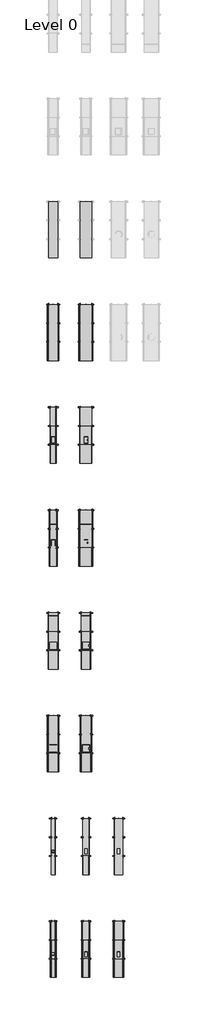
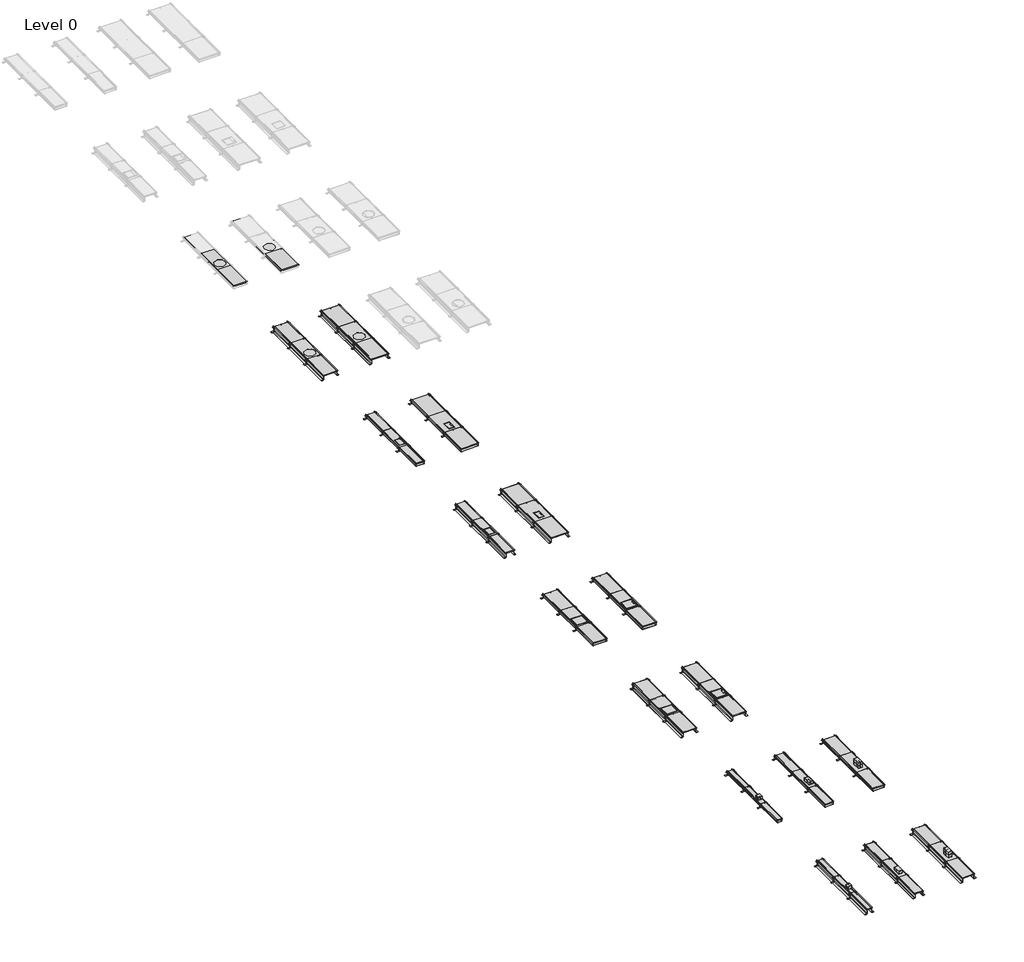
# One storey, part 1 of 4: 82 proxies, 18 cable carrier segments.
"""IFC4 building model written with IfcOpenShell, lengths in millimetres."""

from ifc_helpers import new_model, si_unit, frame, origin, place, context, project, spatial, polyline, outline, extrude, transform, mapped, element, save
from components import electrical_fixtures_5628a288, electrical_fixtures_84b00acf, electrical_fixtures_e54105be, electrical_fixtures_aef36d11, electrical_fixtures_581fab28, electrical_fixtures_b1f2edc7, electrical_fixtures_7e0d0abb, electrical_fixtures_5cdb9d4a, electrical_fixtures_012dd379, electrical_fixtures_ba8608da, electrical_fixtures_6d8ac3d6, electrical_fixtures_e7818586, electrical_fixtures_fd652104, electrical_fixtures_6beec135, electrical_fixtures_f82ab545, electrical_fixtures_a64f4c61, electrical_fixtures_7b31ae11, electrical_fixtures_2455a1ed, electrical_fixtures_ce3c5b8d, electrical_fixtures_1b6315bd, electrical_fixtures_594af182, electrical_fixtures_fba496b2, electrical_fixtures_ba507e34, electrical_fixtures_9ab802ce, electrical_fixtures_dc279cdf, electrical_fixtures_df6a39a7, electrical_fixtures_4151214e, electrical_fixtures_a5200488, electrical_fixtures_af4d04ae, electrical_fixtures_b3ad14d0, electrical_fixtures_b430188c, electrical_fixtures_a94ee444, electrical_fixtures_bc675c06, electrical_fixtures_8ed366d0, electrical_fixtures_bcf557a4, electrical_fixtures_3d1c5f92, electrical_fixtures_84085685, electrical_fixtures_3bb7a620, color_deep_black_c4cdae59, color_deep_black_142afe5e, color_deep_black_3e0b7094, color_deep_black_f01a6ed9

model = new_model("IFC4")

# Units and contexts
model_context = context("Model", 3, world=origin())
ifc_project = project(units=[si_unit("LENGTHUNIT", "METRE", prefix="MILLI")], contexts=[model_context])

# Site, building, storey
site = spatial("IfcSite", under=ifc_project)
building = spatial("IfcBuilding", under=site)
storey = spatial("IfcBuildingStorey", under=building, Name="Level 0", Elevation=0.0)

# Proxies
placement = place(None, origin())
electrical_fixtures_shape = electrical_fixtures_5628a288(model_context)
element("IfcBuildingElementProxy", 1, Name="Electrical_Installation_Hager_Cover-R12-BKAD : Electrical_Installation_Hager_Cover-R12-BKAD", ObjectType="Electrical_Installation_Hager_Cover-R12-BKAD : Electrical_Installation_Hager_Cover-R12-BKAD", at=placement, inside=storey, context=model_context, shape_type="MappedRepresentation", body=[
    mapped(electrical_fixtures_shape, transform((-17399.1749622, -14896.5591011, 0.0), x_axis=(0.0, 1.0, 0.0), y_axis=(-1.0, 0.0, 0.0), z_axis=(0.0, 0.0, 1.0))),
])
electrical_fixtures_2_shape = electrical_fixtures_84b00acf(model_context)
electrical_fixtures_3_shape = electrical_fixtures_e54105be(model_context)
element("IfcBuildingElementProxy", 2, Name="Electrical_Installation_Hager_BKFD-Trunking-System-With-Flexible-Screed-Casing-And-Sealing-Option : Nominal Size 500  Length 2.4 m", ObjectType="Electrical_Installation_Hager_BKFD-Trunking-System-With-Flexible-Screed-Casing-And-Sealing-Option : Nominal Size 500  Length 2.4 m", at=placement, inside=storey, context=model_context, shape_type="MappedRepresentation", body=[
    mapped(electrical_fixtures_2_shape, transform((-17399.1749622, -13296.5591011, 0.0), x_axis=(0.0, -1.0, 0.0), y_axis=(1.0, 0.0, 0.0), z_axis=(0.0, 0.0, 1.0))),
    mapped(electrical_fixtures_3_shape, transform((-17399.1749622, -13296.5591011, 0.0), x_axis=(0.0, -1.0, 0.0), y_axis=(1.0, 0.0, 0.0), z_axis=(0.0, 0.0, 1.0))),
])
electrical_fixtures_4_shape = electrical_fixtures_aef36d11(model_context)
element("IfcBuildingElementProxy", 3, Name="Electrical_Installation_Hager_Blank-Cover-BKA : Electrical_Installation_Hager_Blank-Cover-BKA", ObjectType="Electrical_Installation_Hager_Blank-Cover-BKA : Electrical_Installation_Hager_Blank-Cover-BKA", at=placement, inside=storey, context=model_context, shape_type="MappedRepresentation", body=[
    mapped(electrical_fixtures_4_shape, transform((-18799.1749622, -10496.4911142, 0.0), x_axis=(0.0, -1.0, 0.0), y_axis=(1.0, 0.0, 0.0), z_axis=(0.0, 0.0, 1.0))),
])
element("IfcBuildingElementProxy", 4, Name="Electrical_Installation_Hager_Blank-Cover-BKA : Electrical_Installation_Hager_Blank-Cover-BKA", ObjectType="Electrical_Installation_Hager_Blank-Cover-BKA : Electrical_Installation_Hager_Blank-Cover-BKA", at=placement, inside=storey, context=model_context, shape_type="MappedRepresentation", body=[
    mapped(electrical_fixtures_4_shape, transform((-18799.1749622, -14096.5591011, 0.0), x_axis=(0.0, 1.0, 0.0), y_axis=(-1.0, 0.0, 0.0), z_axis=(0.0, 0.0, 1.0))),
])
element("IfcBuildingElementProxy", 5, Name="Electrical_Installation_Hager_Blank-Cover-BKA : Electrical_Installation_Hager_Blank-Cover-BKA", ObjectType="Electrical_Installation_Hager_Blank-Cover-BKA : Electrical_Installation_Hager_Blank-Cover-BKA", at=placement, inside=storey, context=model_context, shape_type="MappedRepresentation", body=[
    mapped(electrical_fixtures_4_shape, transform((-18799.1749622, -14896.5591011, 0.0), x_axis=(0.0, -1.0, 0.0), y_axis=(1.0, 0.0, 0.0), z_axis=(0.0, 0.0, 1.0))),
])
element("IfcBuildingElementProxy", 6, Name="Electrical_Installation_Hager_Blank-Cover-BKA : Electrical_Installation_Hager_Blank-Cover-BKA", ObjectType="Electrical_Installation_Hager_Blank-Cover-BKA : Electrical_Installation_Hager_Blank-Cover-BKA", at=placement, inside=storey, context=model_context, shape_type="MappedRepresentation", body=[
    mapped(electrical_fixtures_4_shape, transform((-18799.1749622, -31696.0050774, 0.0), x_axis=(0.0, 1.0, 0.0), y_axis=(-1.0, 0.0, 0.0), z_axis=(0.0, 0.0, 1.0))),
])
element("IfcBuildingElementProxy", 7, Name="Electrical_Installation_Hager_Blank-Cover-BKA : Electrical_Installation_Hager_Blank-Cover-BKA", ObjectType="Electrical_Installation_Hager_Blank-Cover-BKA : Electrical_Installation_Hager_Blank-Cover-BKA", at=placement, inside=storey, context=model_context, shape_type="MappedRepresentation", body=[
    mapped(electrical_fixtures_4_shape, transform((-18799.1749622, -33296.0050774, 0.0), x_axis=(0.0, 1.0, 0.0), y_axis=(-1.0, 0.0, 0.0), z_axis=(0.0, 0.0, 1.0))),
])
element("IfcBuildingElementProxy", 8, Name="Electrical_Installation_Hager_Blank-Cover-BKA : Electrical_Installation_Hager_Blank-Cover-BKA", ObjectType="Electrical_Installation_Hager_Blank-Cover-BKA : Electrical_Installation_Hager_Blank-Cover-BKA", at=placement, inside=storey, context=model_context, shape_type="MappedRepresentation", body=[
    mapped(electrical_fixtures_4_shape, transform((-17399.1749622, -33296.0050774, 0.0), x_axis=(0.0, 1.0, 0.0), y_axis=(-1.0, 0.0, 0.0), z_axis=(0.0, 0.0, 1.0))),
])
element("IfcBuildingElementProxy", 9, Name="Electrical_Installation_Hager_Blank-Cover-BKA : Electrical_Installation_Hager_Blank-Cover-BKA", ObjectType="Electrical_Installation_Hager_Blank-Cover-BKA : Electrical_Installation_Hager_Blank-Cover-BKA", at=placement, inside=storey, context=model_context, shape_type="MappedRepresentation", body=[
    mapped(electrical_fixtures_4_shape, transform((-17399.1749622, -31696.0050774, 0.0), x_axis=(0.0, 1.0, 0.0), y_axis=(-1.0, 0.0, 0.0), z_axis=(0.0, 0.0, 1.0))),
])
element("IfcBuildingElementProxy", 10, Name="Electrical_Installation_Hager_Blank-Cover-BKA : Electrical_Installation_Hager_Blank-Cover-BKA", ObjectType="Electrical_Installation_Hager_Blank-Cover-BKA : Electrical_Installation_Hager_Blank-Cover-BKA", at=placement, inside=storey, context=model_context, shape_type="MappedRepresentation", body=[
    mapped(electrical_fixtures_4_shape, transform((-17399.1749622, -28896.4475032, 0.0), x_axis=(0.0, 1.0, 0.0), y_axis=(-1.0, 0.0, 0.0), z_axis=(0.0, 0.0, 1.0))),
])
element("IfcBuildingElementProxy", 11, Name="Electrical_Installation_Hager_Blank-Cover-BKA : Electrical_Installation_Hager_Blank-Cover-BKA", ObjectType="Electrical_Installation_Hager_Blank-Cover-BKA : Electrical_Installation_Hager_Blank-Cover-BKA", at=placement, inside=storey, context=model_context, shape_type="MappedRepresentation", body=[
    mapped(electrical_fixtures_4_shape, transform((-17399.1749622, -27296.4475032, 0.0), x_axis=(0.0, 1.0, 0.0), y_axis=(-1.0, 0.0, 0.0), z_axis=(0.0, 0.0, 1.0))),
])
element("IfcBuildingElementProxy", 12, Name="Electrical_Installation_Hager_Blank-Cover-BKA : Electrical_Installation_Hager_Blank-Cover-BKA", ObjectType="Electrical_Installation_Hager_Blank-Cover-BKA : Electrical_Installation_Hager_Blank-Cover-BKA", at=placement, inside=storey, context=model_context, shape_type="MappedRepresentation", body=[
    mapped(electrical_fixtures_4_shape, transform((-18799.1749622, -27296.4475032, 0.0), x_axis=(0.0, 1.0, 0.0), y_axis=(-1.0, 0.0, 0.0), z_axis=(0.0, 0.0, 1.0))),
])
element("IfcBuildingElementProxy", 13, Name="Electrical_Installation_Hager_Blank-Cover-BKA : Electrical_Installation_Hager_Blank-Cover-BKA", ObjectType="Electrical_Installation_Hager_Blank-Cover-BKA : Electrical_Installation_Hager_Blank-Cover-BKA", at=placement, inside=storey, context=model_context, shape_type="MappedRepresentation", body=[
    mapped(electrical_fixtures_4_shape, transform((-18799.1749622, -28096.4475032, 0.0), x_axis=(0.0, -1.0, 0.0), y_axis=(1.0, 0.0, 0.0), z_axis=(0.0, 0.0, 1.0))),
])
electrical_fixtures_5_shape = electrical_fixtures_581fab28(model_context)
element("IfcBuildingElementProxy", 14, Name="Electrical_Installation_Hager_Blank-Cover-BKA : Electrical_Installation_Hager_Blank-Cover-BKA", ObjectType="Electrical_Installation_Hager_Blank-Cover-BKA : Electrical_Installation_Hager_Blank-Cover-BKA", at=placement, inside=storey, context=model_context, shape_type="MappedRepresentation", body=[
    mapped(electrical_fixtures_5_shape, transform((-15999.1749622, -36095.7456486, 0.0), x_axis=(0.0, 1.0, 0.0), y_axis=(-1.0, 0.0, 0.0), z_axis=(0.0, 0.0, 1.0))),
])
element("IfcBuildingElementProxy", 15, Name="Electrical_Installation_Hager_Blank-Cover-BKA : Electrical_Installation_Hager_Blank-Cover-BKA", ObjectType="Electrical_Installation_Hager_Blank-Cover-BKA : Electrical_Installation_Hager_Blank-Cover-BKA", at=placement, inside=storey, context=model_context, shape_type="MappedRepresentation", body=[
    mapped(electrical_fixtures_5_shape, transform((-15999.1749622, -36895.7456486, 0.0), x_axis=(0.0, -1.0, 0.0), y_axis=(1.0, 0.0, 0.0), z_axis=(0.0, 0.0, 1.0))),
])
element("IfcBuildingElementProxy", 16, Name="Electrical_Installation_Hager_Blank-Cover-BKA : Electrical_Installation_Hager_Blank-Cover-BKA", ObjectType="Electrical_Installation_Hager_Blank-Cover-BKA : Electrical_Installation_Hager_Blank-Cover-BKA", at=placement, inside=storey, context=model_context, shape_type="MappedRepresentation", body=[
    mapped(electrical_fixtures_5_shape, transform((-15999.1749622, -39695.2893297, 0.0), x_axis=(0.0, -1.0, 0.0), y_axis=(1.0, 0.0, 0.0), z_axis=(0.0, 0.0, 1.0))),
])
element("IfcBuildingElementProxy", 17, Name="Electrical_Installation_Hager_Blank-Cover-BKA : Electrical_Installation_Hager_Blank-Cover-BKA", ObjectType="Electrical_Installation_Hager_Blank-Cover-BKA : Electrical_Installation_Hager_Blank-Cover-BKA", at=placement, inside=storey, context=model_context, shape_type="MappedRepresentation", body=[
    mapped(electrical_fixtures_5_shape, transform((-15999.1749622, -41295.2893297, 0.0), x_axis=(0.0, -1.0, 0.0), y_axis=(1.0, 0.0, 0.0), z_axis=(0.0, 0.0, 1.0))),
])
electrical_fixtures_6_shape = electrical_fixtures_b1f2edc7(model_context)
element("IfcBuildingElementProxy", 18, Name="Electrical_Installation_Hager_Blank-Cover-BKA : Electrical_Installation_Hager_Blank-Cover-BKA", ObjectType="Electrical_Installation_Hager_Blank-Cover-BKA : Electrical_Installation_Hager_Blank-Cover-BKA", at=placement, inside=storey, context=model_context, shape_type="MappedRepresentation", body=[
    mapped(electrical_fixtures_6_shape, transform((-17399.1749622, -24496.69677, 0.0), x_axis=(0.0, 1.0, 0.0), y_axis=(-1.0, 0.0, 0.0), z_axis=(0.0, 0.0, 1.0))),
])
element("IfcBuildingElementProxy", 19, Name="Electrical_Installation_Hager_Blank-Cover-BKA : Electrical_Installation_Hager_Blank-Cover-BKA", ObjectType="Electrical_Installation_Hager_Blank-Cover-BKA : Electrical_Installation_Hager_Blank-Cover-BKA", at=placement, inside=storey, context=model_context, shape_type="MappedRepresentation", body=[
    mapped(electrical_fixtures_6_shape, transform((-17399.1749622, -22892.742026, 0.0), x_axis=(0.0, 1.0, 0.0), y_axis=(-1.0, 0.0, 0.0), z_axis=(0.0, 0.0, 1.0))),
])
electrical_fixtures_7_shape = electrical_fixtures_7e0d0abb(model_context)
element("IfcBuildingElementProxy", 20, Name="Electrical_Installation_Hager_Blank-Cover-BKA : Electrical_Installation_Hager_Blank-Cover-BKA", ObjectType="Electrical_Installation_Hager_Blank-Cover-BKA : Electrical_Installation_Hager_Blank-Cover-BKA", at=placement, inside=storey, context=model_context, shape_type="MappedRepresentation", body=[
    mapped(electrical_fixtures_7_shape, transform((-17399.1749622, -20096.2774364, 0.0), x_axis=(0.0, 1.0, 0.0), y_axis=(-1.0, 0.0, 0.0), z_axis=(0.0, 0.0, 1.0))),
])
element("IfcBuildingElementProxy", 21, Name="Electrical_Installation_Hager_Blank-Cover-BKA : Electrical_Installation_Hager_Blank-Cover-BKA", ObjectType="Electrical_Installation_Hager_Blank-Cover-BKA : Electrical_Installation_Hager_Blank-Cover-BKA", at=placement, inside=storey, context=model_context, shape_type="MappedRepresentation", body=[
    mapped(electrical_fixtures_7_shape, transform((-17399.1749622, -18496.2774364, 0.0), x_axis=(0.0, 1.0, 0.0), y_axis=(-1.0, 0.0, 0.0), z_axis=(0.0, 0.0, 1.0))),
])
electrical_fixtures_8_shape = electrical_fixtures_5cdb9d4a(model_context)
element("IfcBuildingElementProxy", 22, Name="Electrical_Installation_Hager_Blank-Cover-BKA : Electrical_Installation_Hager_Blank-Cover-BKA", ObjectType="Electrical_Installation_Hager_Blank-Cover-BKA : Electrical_Installation_Hager_Blank-Cover-BKA", at=placement, inside=storey, context=model_context, shape_type="MappedRepresentation", body=[
    mapped(electrical_fixtures_8_shape, transform((-18799.1749622, -18496.2774364, 0.0), x_axis=(0.0, 1.0, 0.0), y_axis=(-1.0, 0.0, 0.0), z_axis=(0.0, 0.0, 1.0))),
])
element("IfcBuildingElementProxy", 23, Name="Electrical_Installation_Hager_Blank-Cover-BKA : Electrical_Installation_Hager_Blank-Cover-BKA", ObjectType="Electrical_Installation_Hager_Blank-Cover-BKA : Electrical_Installation_Hager_Blank-Cover-BKA", at=placement, inside=storey, context=model_context, shape_type="MappedRepresentation", body=[
    mapped(electrical_fixtures_8_shape, transform((-18799.1749622, -19296.2774364, 0.0), x_axis=(0.0, -1.0, 0.0), y_axis=(1.0, 0.0, 0.0), z_axis=(0.0, 0.0, 1.0))),
])
element("IfcBuildingElementProxy", 24, Name="Electrical_Installation_Hager_Blank-Cover-BKA : Electrical_Installation_Hager_Blank-Cover-BKA", ObjectType="Electrical_Installation_Hager_Blank-Cover-BKA : Electrical_Installation_Hager_Blank-Cover-BKA", at=placement, inside=storey, context=model_context, shape_type="MappedRepresentation", body=[
    mapped(electrical_fixtures_8_shape, transform((-18799.1749622, -22896.69677, 0.0), x_axis=(0.0, 1.0, 0.0), y_axis=(-1.0, 0.0, 0.0), z_axis=(0.0, 0.0, 1.0))),
])
element("IfcBuildingElementProxy", 25, Name="Electrical_Installation_Hager_Blank-Cover-BKA : Electrical_Installation_Hager_Blank-Cover-BKA", ObjectType="Electrical_Installation_Hager_Blank-Cover-BKA : Electrical_Installation_Hager_Blank-Cover-BKA", at=placement, inside=storey, context=model_context, shape_type="MappedRepresentation", body=[
    mapped(electrical_fixtures_8_shape, transform((-18799.1749622, -23696.69677, 0.0), x_axis=(0.0, -1.0, 0.0), y_axis=(1.0, 0.0, 0.0), z_axis=(0.0, 0.0, 1.0))),
])
element("IfcBuildingElementProxy", 26, Name="Electrical_Installation_Hager_Blank-Cover-BKA : Electrical_Installation_Hager_Blank-Cover-BKA", ObjectType="Electrical_Installation_Hager_Blank-Cover-BKA : Electrical_Installation_Hager_Blank-Cover-BKA", at=placement, inside=storey, context=model_context, shape_type="MappedRepresentation", body=[
    mapped(electrical_fixtures_8_shape, transform((-17399.1749622, -37695.7456486, 0.0), x_axis=(0.0, 1.0, 0.0), y_axis=(-1.0, 0.0, 0.0), z_axis=(0.0, 0.0, 1.0))),
])
element("IfcBuildingElementProxy", 27, Name="Electrical_Installation_Hager_Blank-Cover-BKA : Electrical_Installation_Hager_Blank-Cover-BKA", ObjectType="Electrical_Installation_Hager_Blank-Cover-BKA : Electrical_Installation_Hager_Blank-Cover-BKA", at=placement, inside=storey, context=model_context, shape_type="MappedRepresentation", body=[
    mapped(electrical_fixtures_8_shape, transform((-17399.1749622, -36095.7456486, 0.0), x_axis=(0.0, 1.0, 0.0), y_axis=(-1.0, 0.0, 0.0), z_axis=(0.0, 0.0, 1.0))),
])
element("IfcBuildingElementProxy", 28, Name="Electrical_Installation_Hager_Blank-Cover-BKA : Electrical_Installation_Hager_Blank-Cover-BKA", ObjectType="Electrical_Installation_Hager_Blank-Cover-BKA : Electrical_Installation_Hager_Blank-Cover-BKA", at=placement, inside=storey, context=model_context, shape_type="MappedRepresentation", body=[
    mapped(electrical_fixtures_8_shape, transform((-17399.1749622, -42095.2893297, 0.0), x_axis=(0.0, 1.0, 0.0), y_axis=(-1.0, 0.0, 0.0), z_axis=(0.0, 0.0, 1.0))),
])
element("IfcBuildingElementProxy", 29, Name="Electrical_Installation_Hager_Blank-Cover-BKA : Electrical_Installation_Hager_Blank-Cover-BKA", ObjectType="Electrical_Installation_Hager_Blank-Cover-BKA : Electrical_Installation_Hager_Blank-Cover-BKA", at=placement, inside=storey, context=model_context, shape_type="MappedRepresentation", body=[
    mapped(electrical_fixtures_8_shape, transform((-17399.1749622, -40495.2893297, 0.0), x_axis=(0.0, 1.0, 0.0), y_axis=(-1.0, 0.0, 0.0), z_axis=(0.0, 0.0, 1.0))),
])
electrical_fixtures_9_shape = electrical_fixtures_012dd379(model_context)
element("IfcBuildingElementProxy", 30, Name="Electrical_Installation_Hager_Blank-Cover-BKA : Electrical_Installation_Hager_Blank-Cover-BKA", ObjectType="Electrical_Installation_Hager_Blank-Cover-BKA : Electrical_Installation_Hager_Blank-Cover-BKA", at=placement, inside=storey, context=model_context, shape_type="MappedRepresentation", body=[
    mapped(electrical_fixtures_9_shape, transform((-18799.1749622, -36095.7456486, 0.0), x_axis=(0.0, 1.0, 0.0), y_axis=(-1.0, 0.0, 0.0), z_axis=(0.0, 0.0, 1.0))),
])
element("IfcBuildingElementProxy", 31, Name="Electrical_Installation_Hager_Blank-Cover-BKA : Electrical_Installation_Hager_Blank-Cover-BKA", ObjectType="Electrical_Installation_Hager_Blank-Cover-BKA : Electrical_Installation_Hager_Blank-Cover-BKA", at=placement, inside=storey, context=model_context, shape_type="MappedRepresentation", body=[
    mapped(electrical_fixtures_9_shape, transform((-18799.1749622, -36895.7456486, 0.0), x_axis=(0.0, -1.0, 0.0), y_axis=(1.0, 0.0, 0.0), z_axis=(0.0, 0.0, 1.0))),
])
element("IfcBuildingElementProxy", 32, Name="Electrical_Installation_Hager_Blank-Cover-BKA : Electrical_Installation_Hager_Blank-Cover-BKA", ObjectType="Electrical_Installation_Hager_Blank-Cover-BKA : Electrical_Installation_Hager_Blank-Cover-BKA", at=placement, inside=storey, context=model_context, shape_type="MappedRepresentation", body=[
    mapped(electrical_fixtures_9_shape, transform((-18799.1749622, -40495.2893297, 0.0), x_axis=(0.0, 1.0, 0.0), y_axis=(-1.0, 0.0, 0.0), z_axis=(0.0, 0.0, 1.0))),
])
element("IfcBuildingElementProxy", 33, Name="Electrical_Installation_Hager_Blank-Cover-BKA : Electrical_Installation_Hager_Blank-Cover-BKA", ObjectType="Electrical_Installation_Hager_Blank-Cover-BKA : Electrical_Installation_Hager_Blank-Cover-BKA", at=placement, inside=storey, context=model_context, shape_type="MappedRepresentation", body=[
    mapped(electrical_fixtures_9_shape, transform((-18799.1749622, -41295.2893297, 0.0), x_axis=(0.0, -1.0, 0.0), y_axis=(1.0, 0.0, 0.0), z_axis=(0.0, 0.0, 1.0))),
])
electrical_fixtures_10_shape = electrical_fixtures_ba8608da(model_context)
element("IfcBuildingElementProxy", 34, Name="Electrical_Installation_Hager_Blank-Cover-BKAD : Electrical_Installation_Hager_Blank-Cover-BKAD", ObjectType="Electrical_Installation_Hager_Blank-Cover-BKAD : Electrical_Installation_Hager_Blank-Cover-BKAD", at=placement, inside=storey, context=model_context, shape_type="MappedRepresentation", body=[
    mapped(electrical_fixtures_10_shape, transform((-17399.1749622, -10496.4911142, 0.0), x_axis=(0.0, -1.0, 0.0), y_axis=(1.0, 0.0, 0.0), z_axis=(0.0, 0.0, 1.0))),
])
element("IfcBuildingElementProxy", 35, Name="Electrical_Installation_Hager_Blank-Cover-BKAD : Electrical_Installation_Hager_Blank-Cover-BKAD", ObjectType="Electrical_Installation_Hager_Blank-Cover-BKAD : Electrical_Installation_Hager_Blank-Cover-BKAD", at=placement, inside=storey, context=model_context, shape_type="MappedRepresentation", body=[
    mapped(electrical_fixtures_10_shape, transform((-17399.1749622, -14096.5591011, 0.0), x_axis=(0.0, 1.0, 0.0), y_axis=(-1.0, 0.0, 0.0), z_axis=(0.0, 0.0, 1.0))),
])
element("IfcBuildingElementProxy", 36, Name="Electrical_Installation_Hager_Blank-Cover-BKAD : Electrical_Installation_Hager_Blank-Cover-BKAD", ObjectType="Electrical_Installation_Hager_Blank-Cover-BKAD : Electrical_Installation_Hager_Blank-Cover-BKAD", at=placement, inside=storey, context=model_context, shape_type="MappedRepresentation", body=[
    mapped(electrical_fixtures_10_shape, transform((-17399.1749622, -14896.5591011, 0.0), x_axis=(0.0, -1.0, 0.0), y_axis=(1.0, 0.0, 0.0), z_axis=(0.0, 0.0, 1.0))),
])
electrical_fixtures_11_shape = electrical_fixtures_6d8ac3d6(model_context)
element("IfcBuildingElementProxy", 37, Name="Electrical_Installation_Hager_Cover-E04-BKA : Electrical_Installation_Hager_Cover-E04-BKA", ObjectType="Electrical_Installation_Hager_Cover-E04-BKA : Electrical_Installation_Hager_Cover-E04-BKA", at=placement, inside=storey, context=model_context, shape_type="MappedRepresentation", body=[
    mapped(electrical_fixtures_11_shape, transform((-17399.1749622, -23696.69677, 0.0), x_axis=(0.0, 1.0000000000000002, 0.0), y_axis=(-1.0000000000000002, 0.0, 0.0), z_axis=(0.0, 0.0, 1.0))),
])
element("IfcBuildingElementProxy", 38, Name="Electrical_Installation_Hager_Cover-E04-BKA : Electrical_Installation_Hager_Cover-E04-BKA", ObjectType="Electrical_Installation_Hager_Cover-E04-BKA : Electrical_Installation_Hager_Cover-E04-BKA", at=placement, inside=storey, context=model_context, shape_type="MappedRepresentation", body=[
    mapped(electrical_fixtures_11_shape, transform((-17399.1749622, -19296.2774364, 0.0), x_axis=(0.0, 1.0000000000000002, 0.0), y_axis=(-1.0000000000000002, 0.0, 0.0), z_axis=(0.0, 0.0, 1.0))),
])
electrical_fixtures_12_shape = electrical_fixtures_e7818586(model_context)
element("IfcBuildingElementProxy", 39, Name="Electrical_Installation_Hager_Cover-GBZ-BKA : Electrical_Installation_Hager_Cover-GBZ-BKA", ObjectType="Electrical_Installation_Hager_Cover-GBZ-BKA : Electrical_Installation_Hager_Cover-GBZ-BKA", at=placement, inside=storey, context=model_context, shape_type="MappedRepresentation", body=[
    mapped(electrical_fixtures_12_shape, transform((-17399.1749622, -36895.7456486, 0.0), x_axis=(0.0, 1.0000000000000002, 0.0), y_axis=(-1.0000000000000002, 0.0, 0.0), z_axis=(0.0, 0.0, 1.0))),
])
element("IfcBuildingElementProxy", 40, Name="Electrical_Installation_Hager_Cover-GBZ-BKA : Electrical_Installation_Hager_Cover-GBZ-BKA", ObjectType="Electrical_Installation_Hager_Cover-GBZ-BKA : Electrical_Installation_Hager_Cover-GBZ-BKA", at=placement, inside=storey, context=model_context, shape_type="MappedRepresentation", body=[
    mapped(electrical_fixtures_12_shape, transform((-17399.1749622, -41295.2893297, 0.0), x_axis=(0.0, 1.0000000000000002, 0.0), y_axis=(-1.0000000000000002, 0.0, 0.0), z_axis=(0.0, 0.0, 1.0))),
])
electrical_fixtures_13_shape = electrical_fixtures_fd652104(model_context)
element("IfcBuildingElementProxy", 41, Name="Electrical_Installation_Hager_Cover-GBZ-BKA : Electrical_Installation_Hager_Cover-GBZ-BKA", ObjectType="Electrical_Installation_Hager_Cover-GBZ-BKA : Electrical_Installation_Hager_Cover-GBZ-BKA", at=placement, inside=storey, context=model_context, shape_type="MappedRepresentation", body=[
    mapped(electrical_fixtures_13_shape, transform((-15999.1749622, -36895.7456486, 0.0), x_axis=(0.0, 1.0000000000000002, 0.0), y_axis=(-1.0000000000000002, 0.0, 0.0), z_axis=(0.0, 0.0, 1.0))),
])
element("IfcBuildingElementProxy", 42, Name="Electrical_Installation_Hager_Cover-GBZ-BKA : Electrical_Installation_Hager_Cover-GBZ-BKA", ObjectType="Electrical_Installation_Hager_Cover-GBZ-BKA : Electrical_Installation_Hager_Cover-GBZ-BKA", at=placement, inside=storey, context=model_context, shape_type="MappedRepresentation", body=[
    mapped(electrical_fixtures_13_shape, transform((-15999.1749622, -41295.2893297, 0.0), x_axis=(0.0, 1.0000000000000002, 0.0), y_axis=(-1.0000000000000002, 0.0, 0.0), z_axis=(0.0, 0.0, 1.0))),
])
electrical_fixtures_14_shape = electrical_fixtures_6beec135(model_context)
electrical_fixtures_15_shape = electrical_fixtures_f82ab545(model_context)
element("IfcBuildingElementProxy", 43, Name="Electrical_Installation_Hager_BKW-Trunking-System-With-Trunking-Bottom-For-Dry-Cleaned-Floors : Nominal Size 350  Length 2.4 m", ObjectType="Electrical_Installation_Hager_BKW-Trunking-System-With-Trunking-Bottom-For-Dry-Cleaned-Floors : Nominal Size 350  Length 2.4 m", at=placement, inside=storey, context=model_context, shape_type="MappedRepresentation", body=[
    mapped(electrical_fixtures_14_shape, transform((-15999.1749622, -35295.7456486, 0.0), x_axis=(0.0, -1.0, 0.0), y_axis=(1.0, 0.0, 0.0), z_axis=(0.0, 0.0, 1.0))),
    mapped(electrical_fixtures_15_shape, transform((-15999.1749622, -35295.7456486, 0.0), x_axis=(0.0, -1.0, 0.0), y_axis=(1.0, 0.0, 0.0), z_axis=(0.0, 0.0, 1.0))),
])
electrical_fixtures_16_shape = electrical_fixtures_a64f4c61(model_context)
electrical_fixtures_17_shape = electrical_fixtures_7b31ae11(model_context)
element("IfcBuildingElementProxy", 44, Name="Electrical_Installation_Hager_BKW-Trunking-System-With-Trunking-Bottom-For-Dry-Cleaned-Floors : Nominal Size 400  Length 2.4 m", ObjectType="Electrical_Installation_Hager_BKW-Trunking-System-With-Trunking-Bottom-For-Dry-Cleaned-Floors : Nominal Size 400  Length 2.4 m", at=placement, inside=storey, context=model_context, shape_type="MappedRepresentation", body=[
    mapped(electrical_fixtures_16_shape, transform((-18799.1749622, -26496.4475032, 0.0), x_axis=(0.0, -1.0, 0.0), y_axis=(1.0, 0.0, 0.0), z_axis=(0.0, 0.0, 1.0))),
    mapped(electrical_fixtures_17_shape, transform((-18799.1749622, -26496.4475032, 0.0), x_axis=(0.0, -1.0, 0.0), y_axis=(1.0, 0.0, 0.0), z_axis=(0.0, 0.0, 1.0))),
])
element("IfcBuildingElementProxy", 45, Name="Electrical_Installation_Hager_BKW-Trunking-System-With-Trunking-Bottom-For-Dry-Cleaned-Floors : Nominal Size 400  Length 2.4 m", ObjectType="Electrical_Installation_Hager_BKW-Trunking-System-With-Trunking-Bottom-For-Dry-Cleaned-Floors : Nominal Size 400  Length 2.4 m", at=placement, inside=storey, context=model_context, shape_type="MappedRepresentation", body=[
    mapped(electrical_fixtures_16_shape, transform((-17399.1749622, -26496.4475032, 0.0), x_axis=(0.0, -1.0, 0.0), y_axis=(1.0, 0.0, 0.0), z_axis=(0.0, 0.0, 1.0))),
    mapped(electrical_fixtures_17_shape, transform((-17399.1749622, -26496.4475032, 0.0), x_axis=(0.0, -1.0, 0.0), y_axis=(1.0, 0.0, 0.0), z_axis=(0.0, 0.0, 1.0))),
])
electrical_fixtures_18_shape = electrical_fixtures_2455a1ed(model_context)
electrical_fixtures_19_shape = electrical_fixtures_ce3c5b8d(model_context)
element("IfcBuildingElementProxy", 46, Name="Electrical_Installation_Hager_BKW-Trunking-System-With-Trunking-Bottom-For-Dry-Cleaned-Floors : Nominal Size 500  Length 2.4 m", ObjectType="Electrical_Installation_Hager_BKW-Trunking-System-With-Trunking-Bottom-For-Dry-Cleaned-Floors : Nominal Size 500  Length 2.4 m", at=placement, inside=storey, context=model_context, shape_type="MappedRepresentation", body=[
    mapped(electrical_fixtures_18_shape, transform((-17399.1749622, -17696.2774364, 0.0), x_axis=(0.0, -1.0, 0.0), y_axis=(1.0, 0.0, 0.0), z_axis=(0.0, 0.0, 1.0))),
    mapped(electrical_fixtures_19_shape, transform((-17399.1749622, -17696.2774364, 0.0), x_axis=(0.0, -1.0, 0.0), y_axis=(1.0, 0.0, 0.0), z_axis=(0.0, 0.0, 1.0))),
])
electrical_fixtures_20_shape = electrical_fixtures_1b6315bd(model_context)
electrical_fixtures_21_shape = electrical_fixtures_594af182(model_context)
element("IfcBuildingElementProxy", 47, Name="Electrical_Installation_Hager_BKW-Trunking-System-With-Trunking-Bottom-For-Dry-Cleaned-Floors : Nominal Size 150  Length 2.4 m", ObjectType="Electrical_Installation_Hager_BKW-Trunking-System-With-Trunking-Bottom-For-Dry-Cleaned-Floors : Nominal Size 150  Length 2.4 m", at=placement, inside=storey, context=model_context, shape_type="MappedRepresentation", body=[
    mapped(electrical_fixtures_20_shape, transform((-18799.1749622, -35295.7456486, 0.0), x_axis=(0.0, -1.0, 0.0), y_axis=(1.0, 0.0, 0.0), z_axis=(0.0, 0.0, 1.0))),
    mapped(electrical_fixtures_21_shape, transform((-18799.1749622, -35295.7456486, 0.0), x_axis=(0.0, -1.0, 0.0), y_axis=(1.0, 0.0, 0.0), z_axis=(0.0, 0.0, 1.0))),
])
electrical_fixtures_22_shape = electrical_fixtures_fba496b2(model_context)
electrical_fixtures_23_shape = electrical_fixtures_ba507e34(model_context)
element("IfcBuildingElementProxy", 48, Name="Electrical_Installation_Hager_BKW-Trunking-System-With-Trunking-Bottom-For-Dry-Cleaned-Floors : Nominal Size 250  Length 2.4 m", ObjectType="Electrical_Installation_Hager_BKW-Trunking-System-With-Trunking-Bottom-For-Dry-Cleaned-Floors : Nominal Size 250  Length 2.4 m", at=placement, inside=storey, context=model_context, shape_type="MappedRepresentation", body=[
    mapped(electrical_fixtures_22_shape, transform((-18799.1749622, -17696.2774364, 0.0), x_axis=(0.0, -1.0, 0.0), y_axis=(1.0, 0.0, 0.0), z_axis=(0.0, 0.0, 1.0))),
    mapped(electrical_fixtures_23_shape, transform((-18799.1749622, -17696.2774364, 0.0), x_axis=(0.0, -1.0, 0.0), y_axis=(1.0, 0.0, 0.0), z_axis=(0.0, 0.0, 1.0))),
])
element("IfcBuildingElementProxy", 49, Name="Electrical_Installation_Hager_BKW-Trunking-System-With-Trunking-Bottom-For-Dry-Cleaned-Floors : Nominal Size 250  Length 2.4 m", ObjectType="Electrical_Installation_Hager_BKW-Trunking-System-With-Trunking-Bottom-For-Dry-Cleaned-Floors : Nominal Size 250  Length 2.4 m", at=placement, inside=storey, context=model_context, shape_type="MappedRepresentation", body=[
    mapped(electrical_fixtures_22_shape, transform((-17399.1749622, -35295.7456486, 0.0), x_axis=(0.0, -1.0, 0.0), y_axis=(1.0, 0.0, 0.0), z_axis=(0.0, 0.0, 1.0))),
    mapped(electrical_fixtures_23_shape, transform((-17399.1749622, -35295.7456486, 0.0), x_axis=(0.0, -1.0, 0.0), y_axis=(1.0, 0.0, 0.0), z_axis=(0.0, 0.0, 1.0))),
])
electrical_fixtures_24_shape = electrical_fixtures_9ab802ce(model_context)
electrical_fixtures_25_shape = electrical_fixtures_dc279cdf(model_context)
element("IfcBuildingElementProxy", 50, Name="Electrical_Installation_Hager_BKF-Trunking-System-With-Flexible-Screed-Casing-For-Dry-Cleaned-Floors : Nominal Size 150  Length 2.4 m", ObjectType="Electrical_Installation_Hager_BKF-Trunking-System-With-Flexible-Screed-Casing-For-Dry-Cleaned-Floors : Nominal Size 150  Length 2.4 m", at=placement, inside=storey, context=model_context, shape_type="MappedRepresentation", body=[
    mapped(electrical_fixtures_24_shape, transform((-18799.1749622, -39695.2893297, 0.0), x_axis=(0.0, -1.0, 0.0), y_axis=(1.0, 0.0, 0.0), z_axis=(0.0, 0.0, 1.0))),
    mapped(electrical_fixtures_25_shape, transform((-18799.1749622, -39695.2893297, 0.0), x_axis=(0.0, -1.0, 0.0), y_axis=(1.0, 0.0, 0.0), z_axis=(0.0, 0.0, 1.0))),
])
electrical_fixtures_26_shape = electrical_fixtures_df6a39a7(model_context)
electrical_fixtures_27_shape = electrical_fixtures_4151214e(model_context)
element("IfcBuildingElementProxy", 51, Name="Electrical_Installation_Hager_BKF-Trunking-System-With-Flexible-Screed-Casing-For-Dry-Cleaned-Floors : Nominal Size 250  Length 2.4 m", ObjectType="Electrical_Installation_Hager_BKF-Trunking-System-With-Flexible-Screed-Casing-For-Dry-Cleaned-Floors : Nominal Size 250  Length 2.4 m", at=placement, inside=storey, context=model_context, shape_type="MappedRepresentation", body=[
    mapped(electrical_fixtures_26_shape, transform((-18799.1749622, -22096.69677, 0.0), x_axis=(0.0, -1.0, 0.0), y_axis=(1.0, 0.0, 0.0), z_axis=(0.0, 0.0, 1.0))),
    mapped(electrical_fixtures_27_shape, transform((-18799.1749622, -22096.69677, 0.0), x_axis=(0.0, -1.0, 0.0), y_axis=(1.0, 0.0, 0.0), z_axis=(0.0, 0.0, 1.0))),
])
element("IfcBuildingElementProxy", 52, Name="Electrical_Installation_Hager_BKF-Trunking-System-With-Flexible-Screed-Casing-For-Dry-Cleaned-Floors : Nominal Size 250  Length 2.4 m", ObjectType="Electrical_Installation_Hager_BKF-Trunking-System-With-Flexible-Screed-Casing-For-Dry-Cleaned-Floors : Nominal Size 250  Length 2.4 m", at=placement, inside=storey, context=model_context, shape_type="MappedRepresentation", body=[
    mapped(electrical_fixtures_26_shape, transform((-17399.1749622, -39695.2893297, 0.0), x_axis=(0.0, -1.0, 0.0), y_axis=(1.0, 0.0, 0.0), z_axis=(0.0, 0.0, 1.0))),
    mapped(electrical_fixtures_27_shape, transform((-17399.1749622, -39695.2893297, 0.0), x_axis=(0.0, -1.0, 0.0), y_axis=(1.0, 0.0, 0.0), z_axis=(0.0, 0.0, 1.0))),
])
electrical_fixtures_28_shape = electrical_fixtures_a5200488(model_context)
electrical_fixtures_29_shape = electrical_fixtures_af4d04ae(model_context)
element("IfcBuildingElementProxy", 53, Name="Electrical_Installation_Hager_BKF-Trunking-System-With-Flexible-Screed-Casing-For-Dry-Cleaned-Floors : Nominal Size 350  Length 2.4 m", ObjectType="Electrical_Installation_Hager_BKF-Trunking-System-With-Flexible-Screed-Casing-For-Dry-Cleaned-Floors : Nominal Size 350  Length 2.4 m", at=placement, inside=storey, context=model_context, shape_type="MappedRepresentation", body=[
    mapped(electrical_fixtures_28_shape, transform((-15999.1749622, -39695.2893297, 0.0), x_axis=(0.0, -1.0, 0.0), y_axis=(1.0, 0.0, 0.0), z_axis=(0.0, 0.0, 1.0))),
    mapped(electrical_fixtures_29_shape, transform((-15999.1749622, -39695.2893297, 0.0), x_axis=(0.0, -1.0, 0.0), y_axis=(1.0, 0.0, 0.0), z_axis=(0.0, 0.0, 1.0))),
])
electrical_fixtures_30_shape = electrical_fixtures_b3ad14d0(model_context)
electrical_fixtures_31_shape = electrical_fixtures_b430188c(model_context)
element("IfcBuildingElementProxy", 54, Name="Electrical_Installation_Hager_BKF-Trunking-System-With-Flexible-Screed-Casing-For-Dry-Cleaned-Floors : Nominal Size 400  Length 2.4 m", ObjectType="Electrical_Installation_Hager_BKF-Trunking-System-With-Flexible-Screed-Casing-For-Dry-Cleaned-Floors : Nominal Size 400  Length 2.4 m", at=placement, inside=storey, context=model_context, shape_type="MappedRepresentation", body=[
    mapped(electrical_fixtures_30_shape, transform((-18799.1749622, -13296.5591011, 0.0), x_axis=(0.0, -1.0, 0.0), y_axis=(1.0, 0.0, 0.0), z_axis=(0.0, 0.0, 1.0))),
    mapped(electrical_fixtures_31_shape, transform((-18799.1749622, -13296.5591011, 0.0), x_axis=(0.0, -1.0, 0.0), y_axis=(1.0, 0.0, 0.0), z_axis=(0.0, 0.0, 1.0))),
])
element("IfcBuildingElementProxy", 55, Name="Electrical_Installation_Hager_BKF-Trunking-System-With-Flexible-Screed-Casing-For-Dry-Cleaned-Floors : Nominal Size 400  Length 2.4 m", ObjectType="Electrical_Installation_Hager_BKF-Trunking-System-With-Flexible-Screed-Casing-For-Dry-Cleaned-Floors : Nominal Size 400  Length 2.4 m", at=placement, inside=storey, context=model_context, shape_type="MappedRepresentation", body=[
    mapped(electrical_fixtures_30_shape, transform((-18799.1749622, -30896.0050774, 0.0), x_axis=(0.0, -1.0, 0.0), y_axis=(1.0, 0.0, 0.0), z_axis=(0.0, 0.0, 1.0))),
    mapped(electrical_fixtures_31_shape, transform((-18799.1749622, -30896.0050774, 0.0), x_axis=(0.0, -1.0, 0.0), y_axis=(1.0, 0.0, 0.0), z_axis=(0.0, 0.0, 1.0))),
])
element("IfcBuildingElementProxy", 56, Name="Electrical_Installation_Hager_BKF-Trunking-System-With-Flexible-Screed-Casing-For-Dry-Cleaned-Floors : Nominal Size 400  Length 2.4 m", ObjectType="Electrical_Installation_Hager_BKF-Trunking-System-With-Flexible-Screed-Casing-For-Dry-Cleaned-Floors : Nominal Size 400  Length 2.4 m", at=placement, inside=storey, context=model_context, shape_type="MappedRepresentation", body=[
    mapped(electrical_fixtures_30_shape, transform((-17399.1749622, -30896.0050774, 0.0), x_axis=(0.0, -1.0, 0.0), y_axis=(1.0, 0.0, 0.0), z_axis=(0.0, 0.0, 1.0))),
    mapped(electrical_fixtures_31_shape, transform((-17399.1749622, -30896.0050774, 0.0), x_axis=(0.0, -1.0, 0.0), y_axis=(1.0, 0.0, 0.0), z_axis=(0.0, 0.0, 1.0))),
])
element("IfcBuildingElementProxy", 57, Name="Electrical_Installation_Hager_BKF-Trunking-System-With-Flexible-Screed-Casing-For-Dry-Cleaned-Floors : Nominal Size 500  Length 2.4 m", ObjectType="Electrical_Installation_Hager_BKF-Trunking-System-With-Flexible-Screed-Casing-For-Dry-Cleaned-Floors : Nominal Size 500  Length 2.4 m", at=placement, inside=storey, context=model_context, shape_type="MappedRepresentation", body=[
    mapped(electrical_fixtures_2_shape, transform((-17399.1749622, -22096.69677, 0.0), x_axis=(0.0, -1.0, 0.0), y_axis=(1.0, 0.0, 0.0), z_axis=(0.0, 0.0, 1.0))),
    mapped(electrical_fixtures_3_shape, transform((-17399.1749622, -22096.69677, 0.0), x_axis=(0.0, -1.0, 0.0), y_axis=(1.0, 0.0, 0.0), z_axis=(0.0, 0.0, 1.0))),
])
electrical_fixtures_32_shape = electrical_fixtures_a94ee444(model_context)
element("IfcBuildingElementProxy", 58, Name="Electrical_Installation_Hager_VE-EE_Pedestal-box-8 : GB pedestal box 8 inst. fields iron gray", ObjectType="Electrical_Installation_Hager_VE-EE_Pedestal-box-8 : GB pedestal box 8 inst. fields iron gray", at=placement, inside=storey, context=model_context, shape_type="MappedRepresentation", body=[
    mapped(electrical_fixtures_32_shape, transform((-15999.1749622, -41095.2893297, 13.0), x_axis=(1.0, 0.0, 0.0), y_axis=(0.0, 1.0, 0.0), z_axis=(0.0, 0.0, 1.0))),
])
element("IfcBuildingElementProxy", 59, Name="Electrical_Installation_Hager_VE-EE_Pedestal-box-8 : GB pedestal box 8 inst. fields iron gray", ObjectType="Electrical_Installation_Hager_VE-EE_Pedestal-box-8 : GB pedestal box 8 inst. fields iron gray", at=placement, inside=storey, context=model_context, shape_type="MappedRepresentation", body=[
    mapped(electrical_fixtures_32_shape, transform((-15999.1749622, -36695.7456486, 13.0), x_axis=(1.0, 0.0, 0.0), y_axis=(0.0, 1.0, 0.0), z_axis=(0.0, 0.0, 1.0))),
])
electrical_fixtures_33_shape = electrical_fixtures_bc675c06(model_context)
element("IfcBuildingElementProxy", 60, Name="Electrical_Installation_Hager_VE-EE_Pedestal-box-2 : GB pedestal box 2 inst. fields iron gray", ObjectType="Electrical_Installation_Hager_VE-EE_Pedestal-box-2 : GB pedestal box 2 inst. fields iron gray", at=placement, inside=storey, context=model_context, shape_type="MappedRepresentation", body=[
    mapped(electrical_fixtures_33_shape, transform((-18799.1749622, -36695.7456486, 13.0), x_axis=(1.0, 0.0, 0.0), y_axis=(0.0, 1.0, 0.0), z_axis=(0.0, 0.0, 1.0))),
])
element("IfcBuildingElementProxy", 61, Name="Electrical_Installation_Hager_VE-EE_Pedestal-box-2 : GB pedestal box 2 inst. fields iron gray", ObjectType="Electrical_Installation_Hager_VE-EE_Pedestal-box-2 : GB pedestal box 2 inst. fields iron gray", at=placement, inside=storey, context=model_context, shape_type="MappedRepresentation", body=[
    mapped(electrical_fixtures_33_shape, transform((-18799.1749622, -41095.2893297, 13.0), x_axis=(1.0, 0.0, 0.0), y_axis=(0.0, 1.0, 0.0), z_axis=(0.0, 0.0, 1.0))),
])
electrical_fixtures_34_shape = electrical_fixtures_8ed366d0(model_context)
element("IfcBuildingElementProxy", 62, Name="Electrical_Installation_Hager_VE-EE_Pedestal-box-4 : GB pedestal box 4 inst. fields iron gray", ObjectType="Electrical_Installation_Hager_VE-EE_Pedestal-box-4 : GB pedestal box 4 inst. fields iron gray", at=placement, inside=storey, context=model_context, shape_type="MappedRepresentation", body=[
    mapped(electrical_fixtures_34_shape, transform((-17399.1749622, -41095.2893297, 13.0), x_axis=(1.0, 0.0, 0.0), y_axis=(0.0, 1.0, 0.0), z_axis=(0.0, 0.0, 1.0))),
])
element("IfcBuildingElementProxy", 63, Name="Electrical_Installation_Hager_VE-EE_Pedestal-box-4 : GB pedestal box 4 inst. fields iron gray", ObjectType="Electrical_Installation_Hager_VE-EE_Pedestal-box-4 : GB pedestal box 4 inst. fields iron gray", at=placement, inside=storey, context=model_context, shape_type="MappedRepresentation", body=[
    mapped(electrical_fixtures_34_shape, transform((-17399.1749622, -36695.7456486, 13.0), x_axis=(1.0, 0.0, 0.0), y_axis=(0.0, 1.0, 0.0), z_axis=(0.0, 0.0, 1.0))),
])
electrical_fixtures_35_shape = electrical_fixtures_bcf557a4(model_context)
element("IfcBuildingElementProxy", 64, Name="Electrical_Installation_Hager_Cover-E04-BKA : Electrical_Installation_Hager_Cover-E04-BKA", ObjectType="Electrical_Installation_Hager_Cover-E04-BKA : Electrical_Installation_Hager_Cover-E04-BKA", at=placement, inside=storey, context=model_context, shape_type="MappedRepresentation", body=[
    mapped(electrical_fixtures_35_shape, transform((-18799.1749622, -19296.2774364, 0.0), x_axis=(0.0, 1.0000000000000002, 0.0), y_axis=(-1.0000000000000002, 0.0, 0.0), z_axis=(0.0, 0.0, 1.0))),
])
element("IfcBuildingElementProxy", 65, Name="Electrical_Installation_Hager_Cover-E04-BKA : Electrical_Installation_Hager_Cover-E04-BKA", ObjectType="Electrical_Installation_Hager_Cover-E04-BKA : Electrical_Installation_Hager_Cover-E04-BKA", at=placement, inside=storey, context=model_context, shape_type="MappedRepresentation", body=[
    mapped(electrical_fixtures_35_shape, transform((-18799.1749622, -23696.69677, 0.0), x_axis=(0.0, 1.0000000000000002, 0.0), y_axis=(-1.0000000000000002, 0.0, 0.0), z_axis=(0.0, 0.0, 1.0))),
])
electrical_fixtures_36_shape = electrical_fixtures_3d1c5f92(model_context)
element("IfcBuildingElementProxy", 66, Name="Electrical_Installation_Hager_Cover-GBZ-BKA : Electrical_Installation_Hager_Cover-GBZ-BKA", ObjectType="Electrical_Installation_Hager_Cover-GBZ-BKA : Electrical_Installation_Hager_Cover-GBZ-BKA", at=placement, inside=storey, context=model_context, shape_type="MappedRepresentation", body=[
    mapped(electrical_fixtures_36_shape, transform((-18799.1749622, -41295.2893297, 0.0), x_axis=(0.0, 1.0000000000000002, 0.0), y_axis=(-1.0000000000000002, 0.0, 0.0), z_axis=(0.0, 0.0, 1.0))),
])
element("IfcBuildingElementProxy", 67, Name="Electrical_Installation_Hager_Cover-GBZ-BKA : Electrical_Installation_Hager_Cover-GBZ-BKA", ObjectType="Electrical_Installation_Hager_Cover-GBZ-BKA : Electrical_Installation_Hager_Cover-GBZ-BKA", at=placement, inside=storey, context=model_context, shape_type="MappedRepresentation", body=[
    mapped(electrical_fixtures_36_shape, transform((-18799.1749622, -36895.7456486, 0.0), x_axis=(0.0, 1.0000000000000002, 0.0), y_axis=(-1.0000000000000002, 0.0, 0.0), z_axis=(0.0, 0.0, 1.0))),
])
electrical_fixtures_37_shape = electrical_fixtures_84085685(model_context)
element("IfcBuildingElementProxy", 68, Name="Electrical_Installation_Hager_Cover-Q08-BKA : Electrical_Installation_Hager_Cover-Q08-BKA", ObjectType="Electrical_Installation_Hager_Cover-Q08-BKA : Electrical_Installation_Hager_Cover-Q08-BKA", at=placement, inside=storey, context=model_context, shape_type="MappedRepresentation", body=[
    mapped(electrical_fixtures_37_shape, transform((-18799.1749622, -28096.4475032, 0.0), x_axis=(0.0, 1.0000000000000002, 0.0), y_axis=(-1.0000000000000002, 0.0, 0.0), z_axis=(0.0, 0.0, 1.0))),
])
element("IfcBuildingElementProxy", 69, Name="Electrical_Installation_Hager_Cover-Q08-BKA : Electrical_Installation_Hager_Cover-Q08-BKA", ObjectType="Electrical_Installation_Hager_Cover-Q08-BKA : Electrical_Installation_Hager_Cover-Q08-BKA", at=placement, inside=storey, context=model_context, shape_type="MappedRepresentation", body=[
    mapped(electrical_fixtures_37_shape, transform((-17399.1749622, -28096.4475032, 0.0), x_axis=(0.0, 1.0000000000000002, 0.0), y_axis=(-1.0000000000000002, 0.0, 0.0), z_axis=(0.0, 0.0, 1.0))),
])
element("IfcBuildingElementProxy", 70, Name="Electrical_Installation_Hager_Cover-Q08-BKA : Electrical_Installation_Hager_Cover-Q08-BKA", ObjectType="Electrical_Installation_Hager_Cover-Q08-BKA : Electrical_Installation_Hager_Cover-Q08-BKA", at=placement, inside=storey, context=model_context, shape_type="MappedRepresentation", body=[
    mapped(electrical_fixtures_37_shape, transform((-18799.1749622, -32496.0050774, 0.0), x_axis=(0.0, 1.0000000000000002, 0.0), y_axis=(-1.0000000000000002, 0.0, 0.0), z_axis=(0.0, 0.0, 1.0))),
])
element("IfcBuildingElementProxy", 71, Name="Electrical_Installation_Hager_Cover-Q08-BKA : Electrical_Installation_Hager_Cover-Q08-BKA", ObjectType="Electrical_Installation_Hager_Cover-Q08-BKA : Electrical_Installation_Hager_Cover-Q08-BKA", at=placement, inside=storey, context=model_context, shape_type="MappedRepresentation", body=[
    mapped(electrical_fixtures_37_shape, transform((-17399.1749622, -32496.0050774, 0.0), x_axis=(0.0, 1.0000000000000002, 0.0), y_axis=(-1.0000000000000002, 0.0, 0.0), z_axis=(0.0, 0.0, 1.0))),
])
electrical_fixtures_38_shape = electrical_fixtures_3bb7a620(model_context)
element("IfcBuildingElementProxy", 72, Name="Electrical_Installation_Hager_Cover-R12-BKA : Electrical_Installation_Hager_Cover-R12-BKA", ObjectType="Electrical_Installation_Hager_Cover-R12-BKA : Electrical_Installation_Hager_Cover-R12-BKA", at=placement, inside=storey, context=model_context, shape_type="MappedRepresentation", body=[
    mapped(electrical_fixtures_38_shape, transform((-18799.1749622, -10496.4911142, 0.0), x_axis=(0.0, 1.0000000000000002, 0.0), y_axis=(-1.0000000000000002, 0.0, 0.0), z_axis=(0.0, 0.0, 1.0))),
])
element("IfcBuildingElementProxy", 73, Name="Electrical_Installation_Hager_Cover-R12-BKA : Electrical_Installation_Hager_Cover-R12-BKA", ObjectType="Electrical_Installation_Hager_Cover-R12-BKA : Electrical_Installation_Hager_Cover-R12-BKA", at=placement, inside=storey, context=model_context, shape_type="MappedRepresentation", body=[
    mapped(electrical_fixtures_38_shape, transform((-18799.1749622, -14896.5591011, 0.0), x_axis=(0.0, 1.0, 0.0), y_axis=(-1.0, 0.0, 0.0), z_axis=(0.0, 0.0, 1.0))),
])
color_deep_black_shape = color_deep_black_c4cdae59(model_context)
element("IfcBuildingElementProxy", 74, Name="Electrical_Installation_Hager_VE-EE_Cover-BDE04 : Color Deep Black", ObjectType="Electrical_Installation_Hager_VE-EE_Cover-BDE04 : Color Deep Black", at=placement, inside=storey, context=model_context, shape_type="MappedRepresentation", body=[
    mapped(color_deep_black_shape, transform((-18799.1749622, -19096.2774364, 13.0), x_axis=(0.0, 1.0, 0.0), y_axis=(-1.0, 0.0, 0.0), z_axis=(0.0, 0.0, 1.0))),
])
element("IfcBuildingElementProxy", 75, Name="Electrical_Installation_Hager_VE-EE_Cover-BDE04 : Color Deep Black", ObjectType="Electrical_Installation_Hager_VE-EE_Cover-BDE04 : Color Deep Black", at=placement, inside=storey, context=model_context, shape_type="MappedRepresentation", body=[
    mapped(color_deep_black_shape, transform((-18799.1749622, -23496.69677, 13.0), x_axis=(0.0, 1.0, 0.0), y_axis=(-1.0, 0.0, 0.0), z_axis=(0.0, 0.0, 1.0))),
])
color_deep_black_2_shape = color_deep_black_142afe5e(model_context)
element("IfcBuildingElementProxy", 76, Name="Electrical_Installation_Hager_VE-EE_Cover-KDE04 : Color Deep Black", ObjectType="Electrical_Installation_Hager_VE-EE_Cover-KDE04 : Color Deep Black", at=placement, inside=storey, context=model_context, shape_type="MappedRepresentation", body=[
    mapped(color_deep_black_2_shape, transform((-17399.1749622, -19096.2774364, 13.0), x_axis=(0.0, 1.0, 0.0), y_axis=(-1.0, 0.0, 0.0), z_axis=(0.0, 0.0, 1.0))),
])
element("IfcBuildingElementProxy", 77, Name="Electrical_Installation_Hager_VE-EE_Cover-KDE04 : Color Deep Black", ObjectType="Electrical_Installation_Hager_VE-EE_Cover-KDE04 : Color Deep Black", at=placement, inside=storey, context=model_context, shape_type="MappedRepresentation", body=[
    mapped(color_deep_black_2_shape, transform((-17399.1749622, -23496.69677, 13.0), x_axis=(0.0, 1.0, 0.0), y_axis=(-1.0, 0.0, 0.0), z_axis=(0.0, 0.0, 1.0))),
])
color_deep_black_3_shape = color_deep_black_3e0b7094(model_context)
element("IfcBuildingElementProxy", 78, Name="Electrical_Installation_Hager_VE-EE_Cover-BDQ08 : Color Deep Black", ObjectType="Electrical_Installation_Hager_VE-EE_Cover-BDQ08 : Color Deep Black", at=placement, inside=storey, context=model_context, shape_type="MappedRepresentation", body=[
    mapped(color_deep_black_3_shape, transform((-18799.1749622, -27796.4475032, -75.0), x_axis=(1.0, 0.0, 0.0), y_axis=(0.0, 1.0, 0.0), z_axis=(0.0, 0.0, 1.0))),
])
element("IfcBuildingElementProxy", 79, Name="Electrical_Installation_Hager_VE-EE_Cover-BDQ08 : Color Deep Black", ObjectType="Electrical_Installation_Hager_VE-EE_Cover-BDQ08 : Color Deep Black", at=placement, inside=storey, context=model_context, shape_type="MappedRepresentation", body=[
    mapped(color_deep_black_3_shape, transform((-18799.1749622, -27896.4475032, 13.0), x_axis=(1.0, 0.0, 0.0), y_axis=(0.0, 1.0, 0.0), z_axis=(0.0, 0.0, 1.0))),
])
element("IfcBuildingElementProxy", 80, Name="Electrical_Installation_Hager_VE-EE_Cover-BDQ08 : Color Deep Black", ObjectType="Electrical_Installation_Hager_VE-EE_Cover-BDQ08 : Color Deep Black", at=placement, inside=storey, context=model_context, shape_type="MappedRepresentation", body=[
    mapped(color_deep_black_3_shape, transform((-18799.1749622, -32296.0050774, 13.0), x_axis=(1.0, 0.0, 0.0), y_axis=(0.0, 1.0, 0.0), z_axis=(0.0, 0.0, 1.0))),
])
color_deep_black_4_shape = color_deep_black_f01a6ed9(model_context)
element("IfcBuildingElementProxy", 81, Name="Electrical_Installation_Hager_VE-EE_Cover-KDQ08 : Color Deep Black", ObjectType="Electrical_Installation_Hager_VE-EE_Cover-KDQ08 : Color Deep Black", at=placement, inside=storey, context=model_context, shape_type="MappedRepresentation", body=[
    mapped(color_deep_black_4_shape, transform((-17399.1749622, -32296.0050774, 13.0), x_axis=(1.0, 0.0, 0.0), y_axis=(0.0, 1.0, 0.0), z_axis=(0.0, 0.0, 1.0))),
])
element("IfcBuildingElementProxy", 82, Name="Electrical_Installation_Hager_VE-EE_Cover-KDQ08 : Color Deep Black", ObjectType="Electrical_Installation_Hager_VE-EE_Cover-KDQ08 : Color Deep Black", at=placement, inside=storey, context=model_context, shape_type="MappedRepresentation", body=[
    mapped(color_deep_black_4_shape, transform((-17399.1749622, -27896.4475032, 13.0), x_axis=(1.0, 0.0, 0.0), y_axis=(0.0, 1.0, 0.0), z_axis=(0.0, 0.0, 1.0))),
])

# Cable carrier segments
element("IfcCableCarrierSegment", 83, ObjectType="Electrical_Installations_Cable-Trays_Hager_BKW-Trunking-With-Trunking-Bottom-Levelling-Range-90mm-130mm", at=placement, inside=storey, context=model_context, shape_type="SweptSolid", body=[
    extrude(outline(polyline([(-18999.1749622, -8896.4911142), (-18599.1749622, -8896.4911142), (-18599.1749622, -11296.4911142), (-18999.1749622, -11296.4911142), (-18999.1749622, -8896.4911142)])), frame((0.0, 0.0, -12.5), z_axis=(0.0, 0.0, 1.0), x_axis=(1.0, 0.0, 0.0)), (0.0, 0.0, 1.0), 25.0),
])
element("IfcCableCarrierSegment", 84, ObjectType="Electrical_Installations_Cable-Trays_Hager_BKWD-Trunking-With-Trunking-Bottom-And-Sealing-Option-Levelling-Range-90mm-130mm", at=placement, inside=storey, context=model_context, shape_type="SweptSolid", body=[
    extrude(outline(polyline([(-17649.1749622, -8896.4911142), (-17149.1749622, -8896.4911142), (-17149.1749622, -11296.4911142), (-17649.1749622, -11296.4911142), (-17649.1749622, -8896.4911142)])), frame((0.0, 0.0, -12.5), z_axis=(0.0, 0.0, 1.0), x_axis=(1.0, 0.0, 0.0)), (0.0, 0.0, 1.0), 25.0),
])
element("IfcCableCarrierSegment", 85, ObjectType="Electrical_Installations_Cable-Trays_Hager_BKF-Trunking-With-Flexible-Screed-Casing-Levelling-Range-145mm-190mm", at=placement, inside=storey, context=model_context, shape_type="SweptSolid", body=[
    extrude(outline(polyline([(-18999.1749622, -13296.5591011), (-18599.1749622, -13296.5591011), (-18599.1749622, -15696.5591011), (-18999.1749622, -15696.5591011), (-18999.1749622, -13296.5591011)])), frame((0.0, 0.0, -12.5), z_axis=(0.0, 0.0, 1.0), x_axis=(1.0, 0.0, 0.0)), (0.0, 0.0, 1.0), 25.0),
])
element("IfcCableCarrierSegment", 86, ObjectType="Electrical_Installations_Cable-Trays_Hager_BKFD-Trunking-With-Flexible-Screed-Casing-And-Sealing-Option-Levelling-Range-145mm-190mm", at=placement, inside=storey, context=model_context, shape_type="SweptSolid", body=[
    extrude(outline(polyline([(-17649.1749622, -13296.5591011), (-17149.1749622, -13296.5591011), (-17149.1749622, -15696.5591011), (-17649.1749622, -15696.5591011), (-17649.1749622, -13296.5591011)])), frame((0.0, 0.0, -12.5), z_axis=(0.0, 0.0, 1.0), x_axis=(1.0, 0.0, 0.0)), (0.0, 0.0, 1.0), 25.0),
])
element("IfcCableCarrierSegment", 87, ObjectType="Electrical_Installations_Cable-Trays_Hager_BKW-Trunking-With-Trunking-Bottom-Levelling-Range-70mm-110mm", at=placement, inside=storey, context=model_context, shape_type="SweptSolid", body=[
    extrude(outline(polyline([(-18924.1749622, -17696.2774364), (-18674.1749622, -17696.2774364), (-18674.1749622, -20096.2774364), (-18924.1749622, -20096.2774364), (-18924.1749622, -17696.2774364)])), frame((0.0, 0.0, -12.5), z_axis=(0.0, 0.0, 1.0), x_axis=(1.0, 0.0, 0.0)), (0.0, 0.0, 1.0), 25.0),
])
element("IfcCableCarrierSegment", 88, ObjectType="Electrical_Installations_Cable-Trays_Hager_BKW-Trunking-With-Trunking-Bottom-Levelling-Range-70mm-110mm", at=placement, inside=storey, context=model_context, shape_type="SweptSolid", body=[
    extrude(outline(polyline([(-17649.1749622, -17696.2774364), (-17149.1749622, -17696.2774364), (-17149.1749622, -20096.2774364), (-17649.1749622, -20096.2774364), (-17649.1749622, -17696.2774364)])), frame((0.0, 0.0, -12.5), z_axis=(0.0, 0.0, 1.0), x_axis=(1.0, 0.0, 0.0)), (0.0, 0.0, 1.0), 25.0),
])
element("IfcCableCarrierSegment", 89, ObjectType="Electrical_Installations_Cable-Trays_Hager_BKF-Trunking-With-Flexible-Screed-Casing-Levelling-Range-65mm-110mm", at=placement, inside=storey, context=model_context, shape_type="SweptSolid", body=[
    extrude(outline(polyline([(-17649.1749622, -22096.69677), (-17149.1749622, -22096.69677), (-17149.1749622, -24496.69677), (-17649.1749622, -24496.69677), (-17649.1749622, -22096.69677)])), frame((0.0, 0.0, -12.5), z_axis=(0.0, 0.0, 1.0), x_axis=(1.0, 0.0, 0.0)), (0.0, 0.0, 1.0), 25.0),
])
element("IfcCableCarrierSegment", 90, ObjectType="Electrical_Installations_Cable-Trays_Hager_BKF-Trunking-With-Flexible-Screed-Casing-Levelling-Range-65mm-110mm", at=placement, inside=storey, context=model_context, shape_type="SweptSolid", body=[
    extrude(outline(polyline([(-18924.1749622, -22096.69677), (-18674.1749622, -22096.69677), (-18674.1749622, -24496.69677), (-18924.1749622, -24496.69677), (-18924.1749622, -22096.69677)])), frame((0.0, 0.0, -12.5), z_axis=(0.0, 0.0, 1.0), x_axis=(1.0, 0.0, 0.0)), (0.0, 0.0, 1.0), 25.0),
])
element("IfcCableCarrierSegment", 91, ObjectType="Electrical_Installations_Cable-Trays_Hager_BKW-Trunking-With-Trunking-Bottom-Levelling-Range-90mm-130mm", at=placement, inside=storey, context=model_context, shape_type="SweptSolid", body=[
    extrude(outline(polyline([(-18999.1749622, -26496.4475032), (-18599.1749622, -26496.4475032), (-18599.1749622, -28896.4475032), (-18999.1749622, -28896.4475032), (-18999.1749622, -26496.4475032)])), frame((0.0, 0.0, -12.5), z_axis=(0.0, 0.0, 1.0), x_axis=(1.0, 0.0, 0.0)), (0.0, 0.0, 1.0), 25.0),
])
element("IfcCableCarrierSegment", 92, ObjectType="Electrical_Installations_Cable-Trays_Hager_BKW-Trunking-With-Trunking-Bottom-Levelling-Range-90mm-130mm", at=placement, inside=storey, context=model_context, shape_type="SweptSolid", body=[
    extrude(outline(polyline([(-17599.1749622, -26496.4475032), (-17199.1749622, -26496.4475032), (-17199.1749622, -28896.4475032), (-17599.1749622, -28896.4475032), (-17599.1749622, -26496.4475032)])), frame((0.0, 0.0, -12.5), z_axis=(0.0, 0.0, 1.0), x_axis=(1.0, 0.0, 0.0)), (0.0, 0.0, 1.0), 25.0),
])
element("IfcCableCarrierSegment", 93, ObjectType="Electrical_Installations_Cable-Trays_Hager_BKF-Trunking-With-Flexible-Screed-Casing-Levelling-Range-145mm-190mm", at=placement, inside=storey, context=model_context, shape_type="SweptSolid", body=[
    extrude(outline(polyline([(-18999.1749622, -30896.0050774), (-18599.1749622, -30896.0050774), (-18599.1749622, -33296.0050774), (-18999.1749622, -33296.0050774), (-18999.1749622, -30896.0050774)])), frame((0.0, 0.0, -12.5), z_axis=(0.0, 0.0, 1.0), x_axis=(1.0, 0.0, 0.0)), (0.0, 0.0, 1.0), 25.0),
])
element("IfcCableCarrierSegment", 94, ObjectType="Electrical_Installations_Cable-Trays_Hager_BKF-Trunking-With-Flexible-Screed-Casing-Levelling-Range-145mm-190mm", at=placement, inside=storey, context=model_context, shape_type="SweptSolid", body=[
    extrude(outline(polyline([(-17599.1749622, -30896.0050774), (-17199.1749622, -30896.0050774), (-17199.1749622, -33296.0050774), (-17599.1749622, -33296.0050774), (-17599.1749622, -30896.0050774)])), frame((0.0, 0.0, -12.5), z_axis=(0.0, 0.0, 1.0), x_axis=(1.0, 0.0, 0.0)), (0.0, 0.0, 1.0), 25.0),
])
element("IfcCableCarrierSegment", 95, ObjectType="Electrical_Installations_Cable-Trays_Hager_BKW-Trunking-With-Trunking-Bottom-Levelling-Range-50mm-70mm", at=placement, inside=storey, context=model_context, shape_type="SweptSolid", body=[
    extrude(outline(polyline([(-18874.1749622, -35295.7456486), (-18724.1749622, -35295.7456486), (-18724.1749622, -37695.7456486), (-18874.1749622, -37695.7456486), (-18874.1749622, -35295.7456486)])), frame((0.0, 0.0, -12.5), z_axis=(0.0, 0.0, 1.0), x_axis=(1.0, 0.0, 0.0)), (0.0, 0.0, 1.0), 25.0),
])
element("IfcCableCarrierSegment", 96, ObjectType="Electrical_Installations_Cable-Trays_Hager_BKW-Trunking-With-Trunking-Bottom-Levelling-Range-80mm-120mm", at=placement, inside=storey, context=model_context, shape_type="SweptSolid", body=[
    extrude(outline(polyline([(-17524.1749622, -35295.7456486), (-17274.1749622, -35295.7456486), (-17274.1749622, -37695.7456486), (-17524.1749622, -37695.7456486), (-17524.1749622, -35295.7456486)])), frame((0.0, 0.0, -12.5), z_axis=(0.0, 0.0, 1.0), x_axis=(1.0, 0.0, 0.0)), (0.0, 0.0, 1.0), 25.0),
])
element("IfcCableCarrierSegment", 97, ObjectType="Electrical_Installations_Cable-Trays_Hager_BKW-Trunking-With-Trunking-Bottom-Levelling-Range-80mm-120mm", at=placement, inside=storey, context=model_context, shape_type="SweptSolid", body=[
    extrude(outline(polyline([(-16174.1749622, -35295.7456486), (-15824.1749622, -35295.7456486), (-15824.1749622, -37695.7456486), (-16174.1749622, -37695.7456486), (-16174.1749622, -35295.7456486)])), frame((0.0, 0.0, -12.5), z_axis=(0.0, 0.0, 1.0), x_axis=(1.0, 0.0, 0.0)), (0.0, 0.0, 1.0), 25.0),
])
element("IfcCableCarrierSegment", 98, ObjectType="Electrical_Installations_Cable-Trays_Hager_BKF-Trunking-With-Flexible-Screed-Casing-Levelling-Range-65mm-110mm", at=placement, inside=storey, context=model_context, shape_type="SweptSolid", body=[
    extrude(outline(polyline([(-18874.1749622, -39695.2893297), (-18724.1749622, -39695.2893297), (-18724.1749622, -42095.2893297), (-18874.1749622, -42095.2893297), (-18874.1749622, -39695.2893297)])), frame((0.0, 0.0, -12.5), z_axis=(0.0, 0.0, 1.0), x_axis=(1.0, 0.0, 0.0)), (0.0, 0.0, 1.0), 25.0),
])
element("IfcCableCarrierSegment", 99, ObjectType="Electrical_Installations_Cable-Trays_Hager_BKF-Trunking-With-Flexible-Screed-Casing-Levelling-Range-105mm-150mm", at=placement, inside=storey, context=model_context, shape_type="SweptSolid", body=[
    extrude(outline(polyline([(-17524.1749622, -39695.2893297), (-17274.1749622, -39695.2893297), (-17274.1749622, -42095.2893297), (-17524.1749622, -42095.2893297), (-17524.1749622, -39695.2893297)])), frame((0.0, 0.0, -12.5), z_axis=(0.0, 0.0, 1.0), x_axis=(1.0, 0.0, 0.0)), (0.0, 0.0, 1.0), 25.0),
])
element("IfcCableCarrierSegment", 100, ObjectType="Electrical_Installations_Cable-Trays_Hager_BKF-Trunking-With-Flexible-Screed-Casing-Levelling-Range-145mm-190mm", at=placement, inside=storey, context=model_context, shape_type="SweptSolid", body=[
    extrude(outline(polyline([(-16174.1749622, -39695.2893297), (-15824.1749622, -39695.2893297), (-15824.1749622, -42095.2893297), (-16174.1749622, -42095.2893297), (-16174.1749622, -39695.2893297)])), frame((0.0, 0.0, -12.5), z_axis=(0.0, 0.0, 1.0), x_axis=(1.0, 0.0, 0.0)), (0.0, 0.0, 1.0), 25.0),
])

save(model, "model.ifc")
